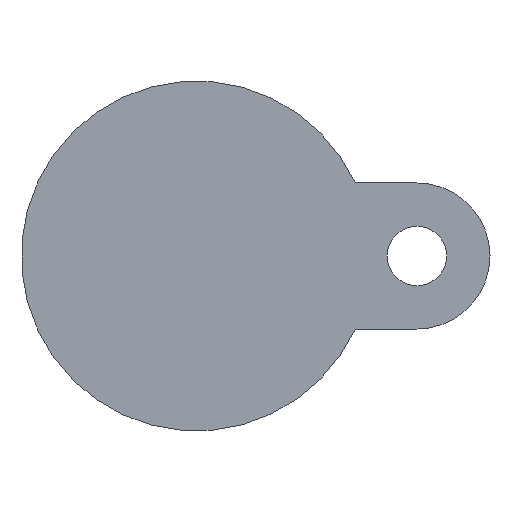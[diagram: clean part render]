
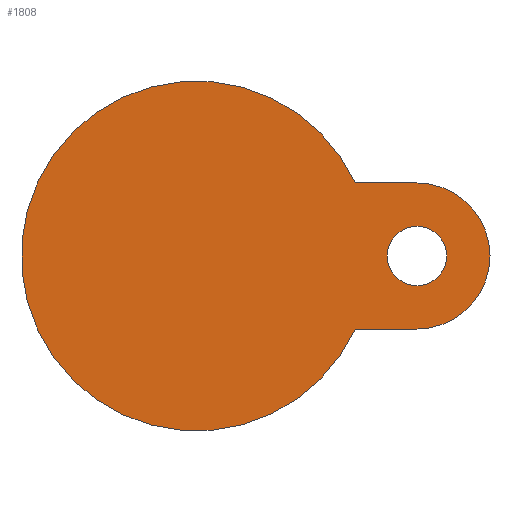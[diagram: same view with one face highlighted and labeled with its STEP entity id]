
A CAD part, front view. The second image highlights one B-rep face of the part: STEP entity #1808.
In plain terms, the highlighted planar face has unit normal (0, -1, 0).
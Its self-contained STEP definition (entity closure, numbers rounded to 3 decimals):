
#11 = CIRCLE ( 'NONE', #605, 21.5 ) ;
#155 = AXIS2_PLACEMENT_3D ( 'NONE', #2369, #2453, #3437 ) ;
#227 = VERTEX_POINT ( 'NONE', #4390 ) ;
#325 = EDGE_CURVE ( 'NONE', #3147, #1757, #2464, .T. ) ;
#374 = CARTESIAN_POINT ( 'NONE',  ( 65., -28., 21.5 ) ) ;
#503 = VERTEX_POINT ( 'NONE', #3575 ) ;
#534 = EDGE_CURVE ( 'NONE', #4199, #227, #2815, .T. ) ;
#605 = AXIS2_PLACEMENT_3D ( 'NONE', #2520, #1463, #849 ) ;
#664 = ORIENTED_EDGE ( 'NONE', *, *, #534, .T. ) ;
#734 = AXIS2_PLACEMENT_3D ( 'NONE', #4011, #3696, #1980 ) ;
#849 = DIRECTION ( 'NONE',  ( 1., 0., 0. ) ) ;
#952 = EDGE_CURVE ( 'NONE', #1757, #3147, #1750, .T. ) ;
#1104 = ORIENTED_EDGE ( 'NONE', *, *, #2724, .F. ) ;
#1289 = DIRECTION ( 'NONE',  ( 1., 0., 0. ) ) ;
#1300 = EDGE_LOOP ( 'NONE', ( #3726, #1603 ) ) ;
#1440 = CARTESIAN_POINT ( 'NONE',  ( 46.797, -28., 21.5 ) ) ;
#1463 = DIRECTION ( 'NONE',  ( 0., 1., 0. ) ) ;
#1598 = LINE ( 'NONE', #3680, #2631 ) ;
#1603 = ORIENTED_EDGE ( 'NONE', *, *, #325, .T. ) ;
#1750 = CIRCLE ( 'NONE', #734, 8.75 ) ;
#1757 = VERTEX_POINT ( 'NONE', #3645 ) ;
#1808 = ADVANCED_FACE ( 'NONE', ( #2433, #3457 ), #2120, .T. ) ;
#1862 = EDGE_CURVE ( 'NONE', #2626, #503, #11, .T. ) ;
#1880 = CARTESIAN_POINT ( 'NONE',  ( 73.75, -28., 0. ) ) ;
#1911 = DIRECTION ( 'NONE',  ( -1., 0., 0. ) ) ;
#1980 = DIRECTION ( 'NONE',  ( -1., 0., 0. ) ) ;
#2024 = ORIENTED_EDGE ( 'NONE', *, *, #1862, .F. ) ;
#2120 = PLANE ( 'NONE',  #155 ) ;
#2249 = LINE ( 'NONE', #2295, #4132 ) ;
#2295 = CARTESIAN_POINT ( 'NONE',  ( 36.5, -28., 21.5 ) ) ;
#2317 = DIRECTION ( 'NONE',  ( 1., 0., 0. ) ) ;
#2369 = CARTESIAN_POINT ( 'NONE',  ( 51.5, -28., 0. ) ) ;
#2433 = FACE_BOUND ( 'NONE', #1300, .T. ) ;
#2453 = DIRECTION ( 'NONE',  ( 0., -1., 0. ) ) ;
#2464 = CIRCLE ( 'NONE', #3035, 8.75 ) ;
#2481 = DIRECTION ( 'NONE',  ( -1., 0., 0. ) ) ;
#2520 = CARTESIAN_POINT ( 'NONE',  ( 65., -28., 0. ) ) ;
#2626 = VERTEX_POINT ( 'NONE', #374 ) ;
#2631 = VECTOR ( 'NONE', #1911, 1000. ) ;
#2724 = EDGE_CURVE ( 'NONE', #503, #227, #1598, .T. ) ;
#2778 = EDGE_CURVE ( 'NONE', #4199, #2626, #2249, .T. ) ;
#2815 = CIRCLE ( 'NONE', #3243, 51.5 ) ;
#3035 = AXIS2_PLACEMENT_3D ( 'NONE', #4165, #4212, #2481 ) ;
#3147 = VERTEX_POINT ( 'NONE', #1880 ) ;
#3243 = AXIS2_PLACEMENT_3D ( 'NONE', #4027, #4365, #1289 ) ;
#3323 = EDGE_LOOP ( 'NONE', ( #664, #1104, #2024, #4154 ) ) ;
#3437 = DIRECTION ( 'NONE',  ( 1., 0., 0. ) ) ;
#3457 = FACE_OUTER_BOUND ( 'NONE', #3323, .T. ) ;
#3575 = CARTESIAN_POINT ( 'NONE',  ( 65., -28., -21.5 ) ) ;
#3645 = CARTESIAN_POINT ( 'NONE',  ( 56.25, -28., 0. ) ) ;
#3680 = CARTESIAN_POINT ( 'NONE',  ( 36.5, -28., -21.5 ) ) ;
#3696 = DIRECTION ( 'NONE',  ( 0., 1., 0. ) ) ;
#3726 = ORIENTED_EDGE ( 'NONE', *, *, #952, .T. ) ;
#4011 = CARTESIAN_POINT ( 'NONE',  ( 65., -28., 0. ) ) ;
#4027 = CARTESIAN_POINT ( 'NONE',  ( 0., -28., 0. ) ) ;
#4132 = VECTOR ( 'NONE', #2317, 1000. ) ;
#4154 = ORIENTED_EDGE ( 'NONE', *, *, #2778, .F. ) ;
#4165 = CARTESIAN_POINT ( 'NONE',  ( 65., -28., 0. ) ) ;
#4199 = VERTEX_POINT ( 'NONE', #1440 ) ;
#4212 = DIRECTION ( 'NONE',  ( 0., 1., 0. ) ) ;
#4365 = DIRECTION ( 'NONE',  ( 0., -1., 0. ) ) ;
#4390 = CARTESIAN_POINT ( 'NONE',  ( 46.797, -28., -21.5 ) ) ;
